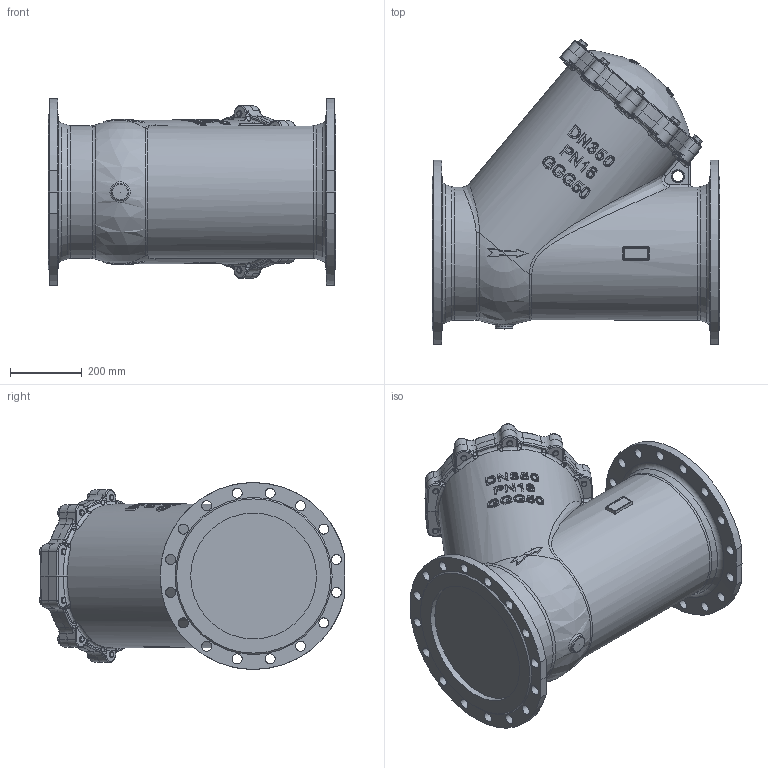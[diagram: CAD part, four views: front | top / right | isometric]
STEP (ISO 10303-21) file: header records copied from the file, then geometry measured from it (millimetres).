
FILE_DESCRIPTION (( 'STEP AP214' ), '1' );
FILE_NAME ('DN350.STEP', '2026-09-15T14:09:22', ( '' ), ( '' ), 'SwSTEP 2.0', 'SolidWorks 2024', '' );
FILE_SCHEMA (( 'AUTOMOTIVE_DESIGN' ));
Length unit declared in the file: millimetre
Products named in the file (1): DN350
Bounding box: 800 x 850.59 x 520 mm (x, y, z)
Volume: 142183565 mm3; surface area: 2515584.6 mm2
Topology: 1 solids, 22 shells, 1529 faces, 3905 edges, 2472 vertices
Faces by surface type: bspline 712, plane 340, cylinder 211, cone 129, torus 85, sphere 52
Full cylindrical faces by diameter (mm): 16 x20, 17.5 x10, 18 x10, 28 x32, 30 x10, 48 x1, 350 x2, 370 x2
Entity records: 97136 total; most frequent: CARTESIAN_POINT 54404, ORIENTED_EDGE 7272, DIRECTION 4072, EDGE_CURVE 3636, VERTEX_POINT 2361, B_SPLINE_CURVE_WITH_KNOTS 2041, EDGE_LOOP 1847, AXIS2_PLACEMENT_3D 1747
